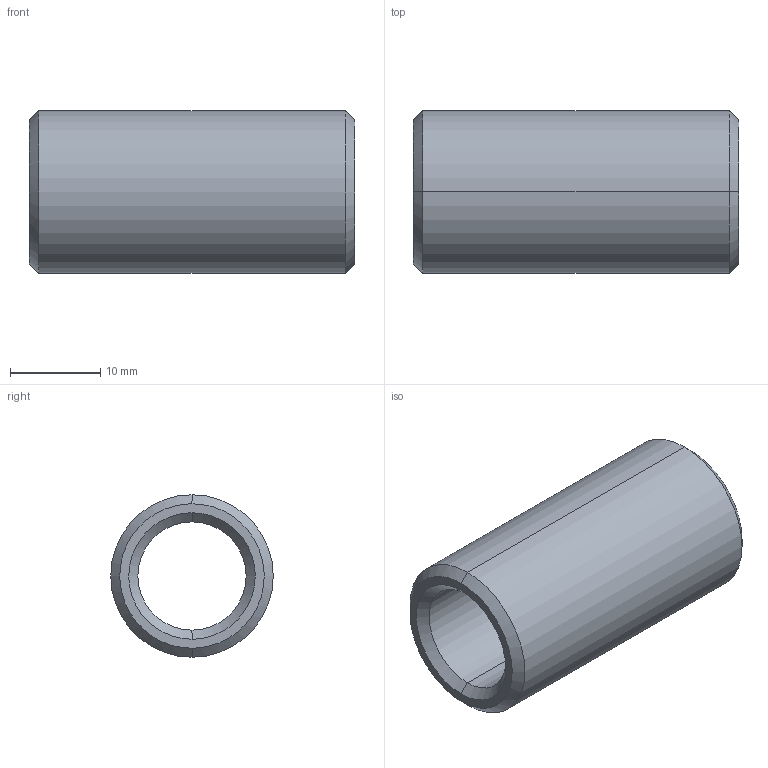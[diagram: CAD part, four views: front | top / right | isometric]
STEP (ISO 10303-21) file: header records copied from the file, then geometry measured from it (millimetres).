
FILE_DESCRIPTION(('CATIA V5 STEP Exchange'),'2;1');
FILE_NAME('C:\Users\Utente\Desktop\IO LAVORO\3D X SITO CF\X SITO\PLASTICA\352\352-12X36.stp','2021-04-10T09:24:13+00:00',('none'),('none'),'CATIA Version 5 Release 20 GA (IN-10)','CATIA V5 STEP AP203','none');
FILE_SCHEMA(('CONFIG_CONTROL_DESIGN'));
Length unit declared in the file: millimetre
Products named in the file (1): 352-12X36
Bounding box: 36 x 18 x 18 mm (x, y, z)
Volume: 5006.6 mm3; surface area: 3570.3 mm2
Topology: 1 solids, 1 shells, 14 faces, 44 edges, 32 vertices
Faces by surface type: cone 6, cylinder 4, plane 2, torus 2
Entity records: 634 total; most frequent: CARTESIAN_POINT 203, ORIENTED_EDGE 88, DIRECTION 64, EDGE_CURVE 44, AXIS2_PLACEMENT_3D 41, VERTEX_POINT 32, CIRCLE 26, EDGE_LOOP 16
